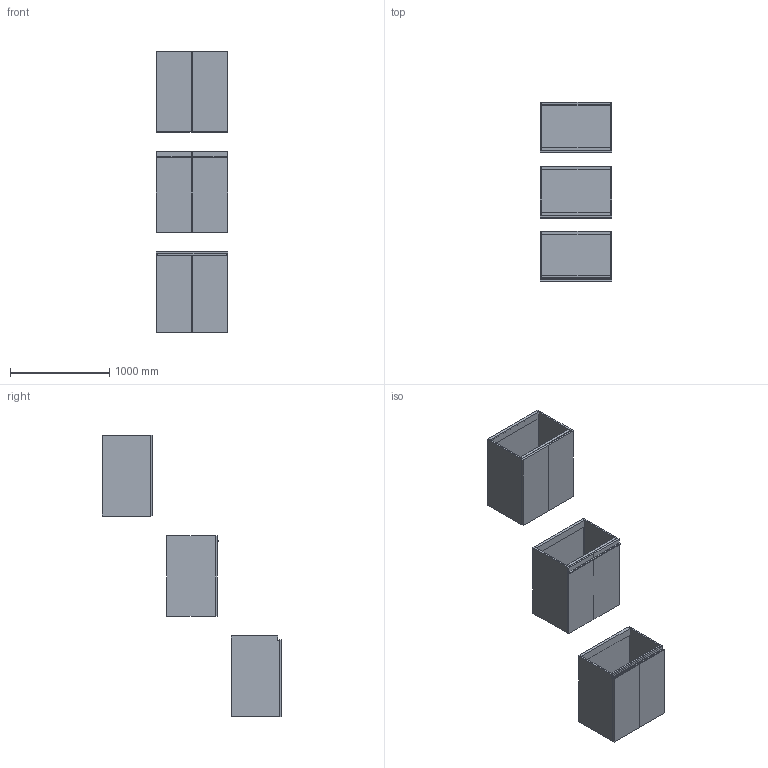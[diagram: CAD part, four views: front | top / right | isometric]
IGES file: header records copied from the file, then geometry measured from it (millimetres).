
Start section: Data from Parasolid IGES Translator 19.0.9, Copyright(c) 2006 Siemens PL M Software. All Rights Reserved.
Global section: file name: noorth-SI-H 81,2 D 51 W 72_9725.igs; native system: By Siemens PLM Incorporated; preprocessor: XPlus GENERIC/IGES 19.0.9; author: Noname; organization: Noname; date: 20200601.141205; units: metre
Bounding box: 720 x 1807.1 x 2832.01 mm (x, y, z)
Volume: 97425185.3 mm3; surface area: 14832564.8 mm2
Topology: 27 solids, 27 shells, 264 faces, 574 edges, 340 vertices
Faces by surface type: plane 180, cylinder 52, sphere 20, torus 12
